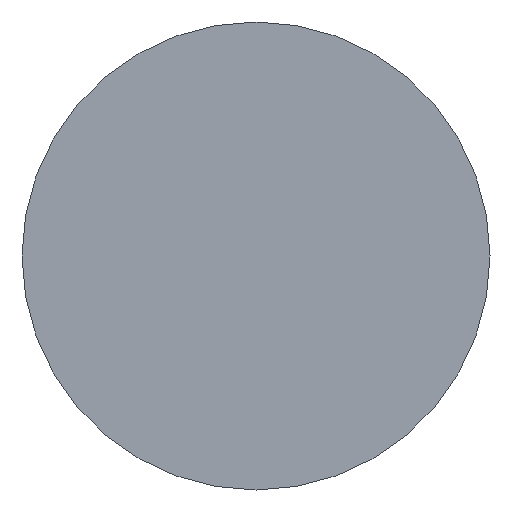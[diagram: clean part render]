
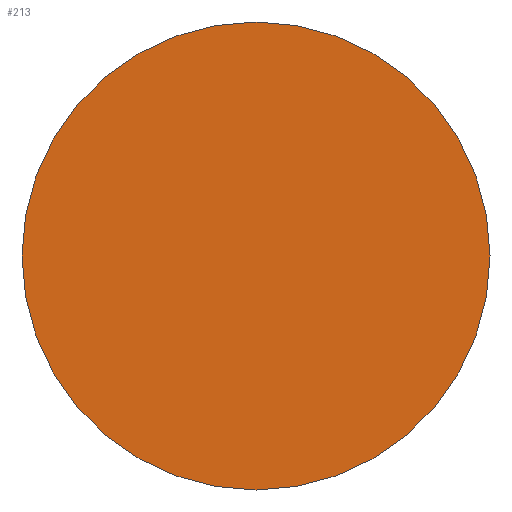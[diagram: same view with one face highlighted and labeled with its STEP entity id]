
A CAD part, left-side view. The second image highlights one B-rep face of the part: STEP entity #213.
In plain terms, the highlighted planar face has unit normal (-1, 0, 0).
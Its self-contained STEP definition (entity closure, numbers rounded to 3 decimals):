
#8 = DIRECTION ( 'NONE',  ( 0., -1., 0. ) ) ;
#10 = EDGE_CURVE ( 'NONE', #86, #182, #153, .T. ) ;
#19 = AXIS2_PLACEMENT_3D ( 'NONE', #248, #177, #201 ) ;
#37 = ORIENTED_EDGE ( 'NONE', *, *, #10, .F. ) ;
#81 = EDGE_CURVE ( 'NONE', #182, #86, #129, .T. ) ;
#86 = VERTEX_POINT ( 'NONE', #89 ) ;
#89 = CARTESIAN_POINT ( 'NONE',  ( 0., 6., 0. ) ) ;
#101 = EDGE_LOOP ( 'NONE', ( #37, #268 ) ) ;
#129 = CIRCLE ( 'NONE', #142, 6. ) ;
#135 = DIRECTION ( 'NONE',  ( 1., 0., 0. ) ) ;
#139 = CARTESIAN_POINT ( 'NONE',  ( 0., 0., 0. ) ) ;
#140 = FACE_OUTER_BOUND ( 'NONE', #101, .T. ) ;
#142 = AXIS2_PLACEMENT_3D ( 'NONE', #139, #135, #145 ) ;
#145 = DIRECTION ( 'NONE',  ( 0., 1., 0. ) ) ;
#153 = CIRCLE ( 'NONE', #19, 6. ) ;
#177 = DIRECTION ( 'NONE',  ( 1., 0., 0. ) ) ;
#182 = VERTEX_POINT ( 'NONE', #242 ) ;
#201 = DIRECTION ( 'NONE',  ( 0., 1., 0. ) ) ;
#202 = AXIS2_PLACEMENT_3D ( 'NONE', #250, #240, #8 ) ;
#213 = ADVANCED_FACE ( 'NONE', ( #140 ), #231, .T. ) ;
#231 = PLANE ( 'NONE',  #202 ) ;
#240 = DIRECTION ( 'NONE',  ( -1., 0., 0. ) ) ;
#242 = CARTESIAN_POINT ( 'NONE',  ( 0., -6., 0. ) ) ;
#248 = CARTESIAN_POINT ( 'NONE',  ( 0., 0., 0. ) ) ;
#250 = CARTESIAN_POINT ( 'NONE',  ( 0., 0., 0. ) ) ;
#268 = ORIENTED_EDGE ( 'NONE', *, *, #81, .F. ) ;
